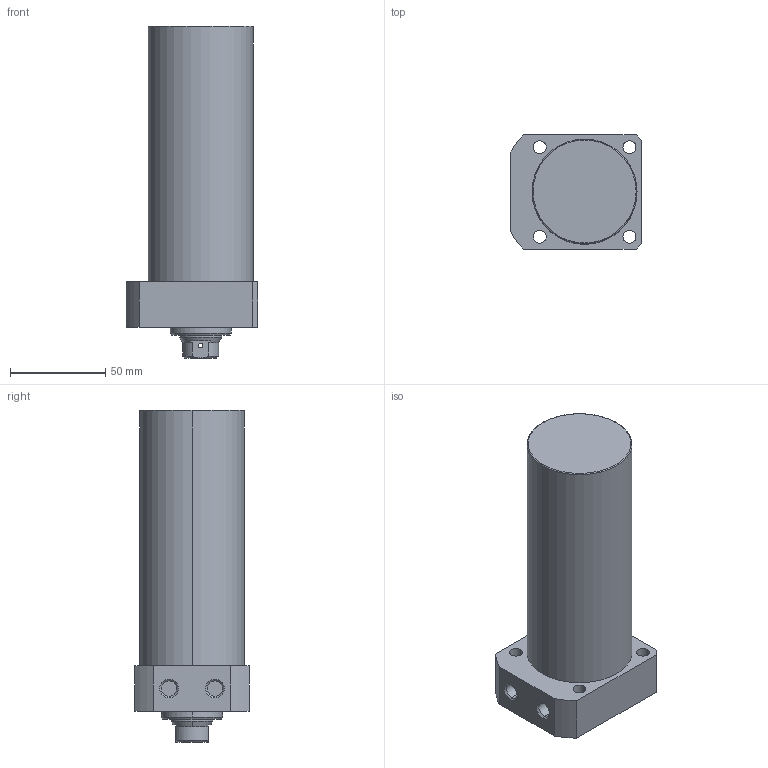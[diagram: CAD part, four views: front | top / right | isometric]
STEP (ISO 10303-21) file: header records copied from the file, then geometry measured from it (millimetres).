
FILE_DESCRIPTION (( 'STEP AP203' ), '1' );
FILE_NAME ('CLLR-055CB-105.STEP', '2019-12-17T11:54:38', ( '' ), ( '' ), 'SwSTEP 2.0', 'SolidWorks 2015', '' );
FILE_SCHEMA (( 'CONFIG_CONTROL_DESIGN' ));
Length unit declared in the file: millimetre
Products named in the file (1): CLLR-055CB-105
Bounding box: 69 x 60 x 174 mm (x, y, z)
Volume: 415946.4 mm3; surface area: 41489 mm2
Topology: 1 solids, 1 shells, 69 faces, 162 edges, 101 vertices
Faces by surface type: cylinder 33, plane 19, cone 15, torus 2
Entity records: 2175 total; most frequent: CARTESIAN_POINT 451, DIRECTION 368, ORIENTED_EDGE 320, EDGE_CURVE 160, AXIS2_PLACEMENT_3D 150, VERTEX_POINT 101, EDGE_LOOP 89, CIRCLE 80
